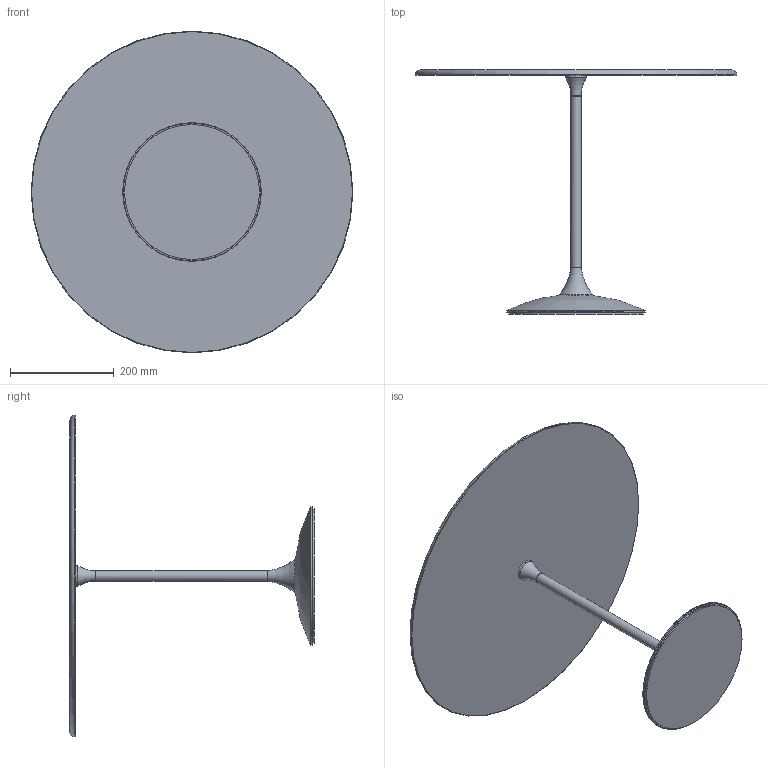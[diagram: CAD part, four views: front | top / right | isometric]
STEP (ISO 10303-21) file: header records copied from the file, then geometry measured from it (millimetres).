
FILE_DESCRIPTION((''),'2;1');
FILE_NAME('C:\AutodeskVault\AreaLavoro\Progetti\SoVeT Italia\2. Tavolini_Coffee tables\Tulip\Web file\Tulip Web\P4604.stp','2012-06-14T17:26:30',('Gianluca'),('So.Ve.T. s.r.l.'),'Autodesk Inventor 2013','Autodesk Inventor 2013','IL PROGETTO E'' DI ESCLUSIVA PROPRIETA'' DELLA SO.VE.T. srl. E'' VIETATA OGNI RIPRODUZIONE TOTALE O PARZIALE E QUALSIASI UTILIZZO NON AUTORIZZATO. ');
FILE_SCHEMA(('AUTOMOTIVE_DESIGN { 1 0 10303 214 1 1 1 1 }'));
Length unit declared in the file: millimetre
Products named in the file (1): P4604 LCTR Contorno semplificato
Bounding box: 620 x 470.45 x 620 mm (x, y, z)
Volume: 4437194.9 mm3; surface area: 761948.6 mm2
Topology: 1 solids, 1 shells, 26 faces, 51 edges, 30 vertices
Faces by surface type: cone 7, torus 7, plane 6, cylinder 5, bspline 1
Full cylindrical faces by diameter (mm): 20 x1, 40 x1, 60 x1, 260 x1, 267 x1
Entity records: 614 total; most frequent: CARTESIAN_POINT 102, DIRECTION 102, AXIS2_PLACEMENT_3D 51, ORIENTED_EDGE 50, EDGE_LOOP 50, STYLED_ITEM 27, FACE_OUTER_BOUND 26, ADVANCED_FACE 26
